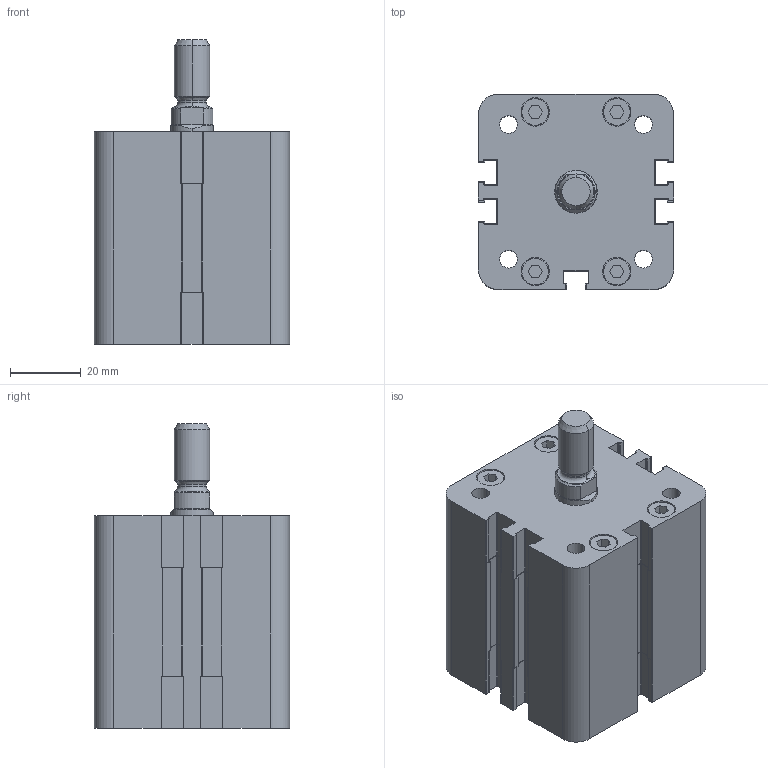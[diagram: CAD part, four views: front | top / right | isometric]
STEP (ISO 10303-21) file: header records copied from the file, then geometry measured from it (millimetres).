
FILE_DESCRIPTION (( 'STEP AP203' ), '1' );
FILE_NAME ('WBM0400015A.step', '2013-04-22T07:01:04', ( '' ), ( '' ), 'SwSTEP 2.0', 'SolidWorks 2012', '' );
FILE_SCHEMA (( 'CONFIG_CONTROL_DESIGN' ));
Length unit declared in the file: millimetre
Products named in the file (1): WBM0400015A
Bounding box: 55 x 55 x 85.9 mm (x, y, z)
Volume: 165092.3 mm3; surface area: 29247.7 mm2
Topology: 1 solids, 1 shells, 412 faces, 1124 edges, 742 vertices
Faces by surface type: plane 208, cylinder 184, cone 16, torus 4
Entity records: 13281 total; most frequent: CARTESIAN_POINT 2431, DIRECTION 2306, ORIENTED_EDGE 2248, EDGE_CURVE 1124, AXIS2_PLACEMENT_3D 793, VERTEX_POINT 742, VECTOR 720, LINE 720
